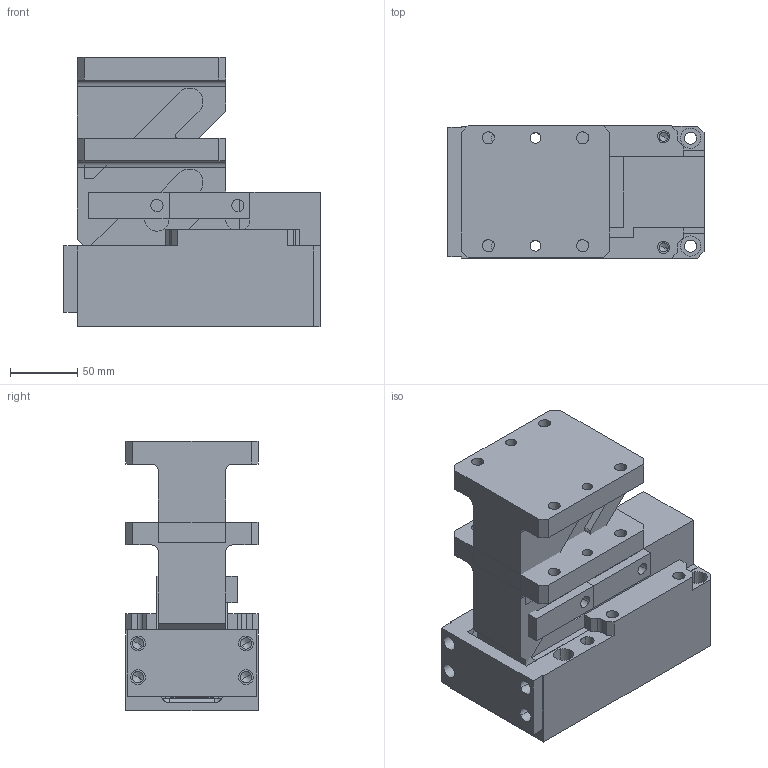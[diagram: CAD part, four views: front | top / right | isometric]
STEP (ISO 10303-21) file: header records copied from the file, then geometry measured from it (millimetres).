
FILE_DESCRIPTION(('CATIA V5 STEP','CAx-IF Rec.Pracs.--- Model Styling and Organization---1.4--- 2014-01-23','CAx-IF Rec.Pracs.---3D Tessellated Data Validation Properties---0.5---2014-09-14'),'2;1');
FILE_NAME('H:\_COMPRESS_2\2016.11.00.052.060.1.2__CM.stp','2020-11-18T12:45:26+00:00',('${USER}'),('AUDI AG, ${GROUP}'),'CATIA Version 5-6 Release 2018 SP3 HF27','CATIA V5 STEP AP242','none');
FILE_SCHEMA(('AP242_MANAGED_MODEL_BASED_3D_ENGINEERING_MIM_LF {1 0 10303 442 1 1 4}'));
Length unit declared in the file: millimetre
Products named in the file (1): 2016.11.00.052.060.1.2__CM
Bounding box: 190 x 98 x 200 mm (x, y, z)
Volume: 2548343.6 mm3; surface area: 311379.3 mm2
Topology: 4 solids, 4 shells, 412 faces, 1068 edges, 687 vertices
Faces by surface type: plane 221, cylinder 153, cone 32, sphere 4, bspline 2
Entity records: 11855 total; most frequent: CARTESIAN_POINT 2201, ORIENTED_EDGE 2090, DIRECTION 1662, EDGE_CURVE 1045, VECTOR 704, LINE 704, VERTEX_POINT 683, AXIS2_PLACEMENT_3D 646
